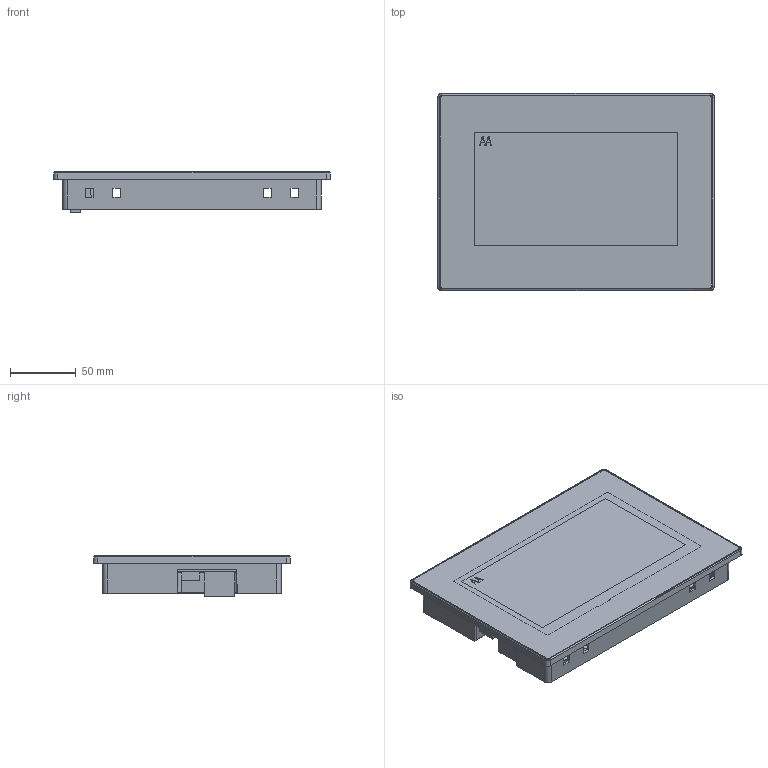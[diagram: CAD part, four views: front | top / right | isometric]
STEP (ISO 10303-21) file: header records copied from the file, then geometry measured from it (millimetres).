
FILE_DESCRIPTION(/* description */ (''),/* implementation_level */ '2;1');
FILE_NAME(/* name */ 'SDWb070S24.stp',/* time_stamp */ '2025-02-15T12:04:20+08:00',/* author */ (''),/* organization */ (''),/* preprocessor_version */ 'ST-DEVELOPER v16',/* originating_system */ 'SIEMENS PLM Software NX 10.0',/* authorisation */ '');
FILE_SCHEMA (('AP203_CONFIGURATION_CONTROLLED_3D_DESIGN_OF_MECHANICAL_PARTS_AND_ASSEMBLIES_MIM_LF { 1 0 10303 403 2 1 2}'));
Length unit declared in the file: millimetre
Products named in the file (1): SDWb070S24
Bounding box: 210 x 149.5 x 30.7 mm (x, y, z)
Volume: 185003.6 mm3; surface area: 261848.6 mm2
Topology: 10 solids, 10 shells, 824 faces, 2266 edges, 1488 vertices
Faces by surface type: plane 503, cone 210, cylinder 79, torus 16, bspline 12, extrusion 4
Full cylindrical faces by diameter (mm): 2.6 x6, 2.8 x2, 3.5 x2, 7.5 x6
Entity records: 27343 total; most frequent: CARTESIAN_POINT 5528, ORIENTED_EDGE 4498, DIRECTION 4359, EDGE_CURVE 2249, VECTOR 1557, LINE 1553, VERTEX_POINT 1488, AXIS2_PLACEMENT_3D 1401
